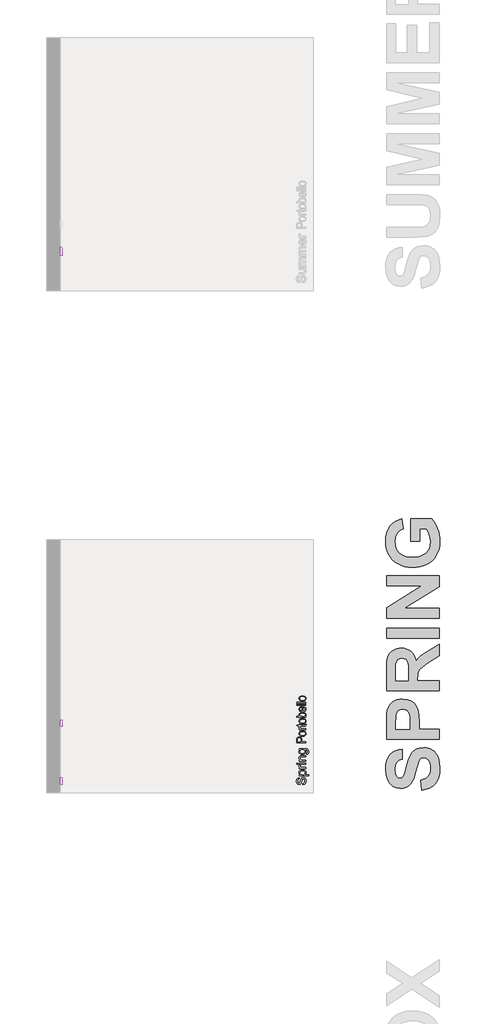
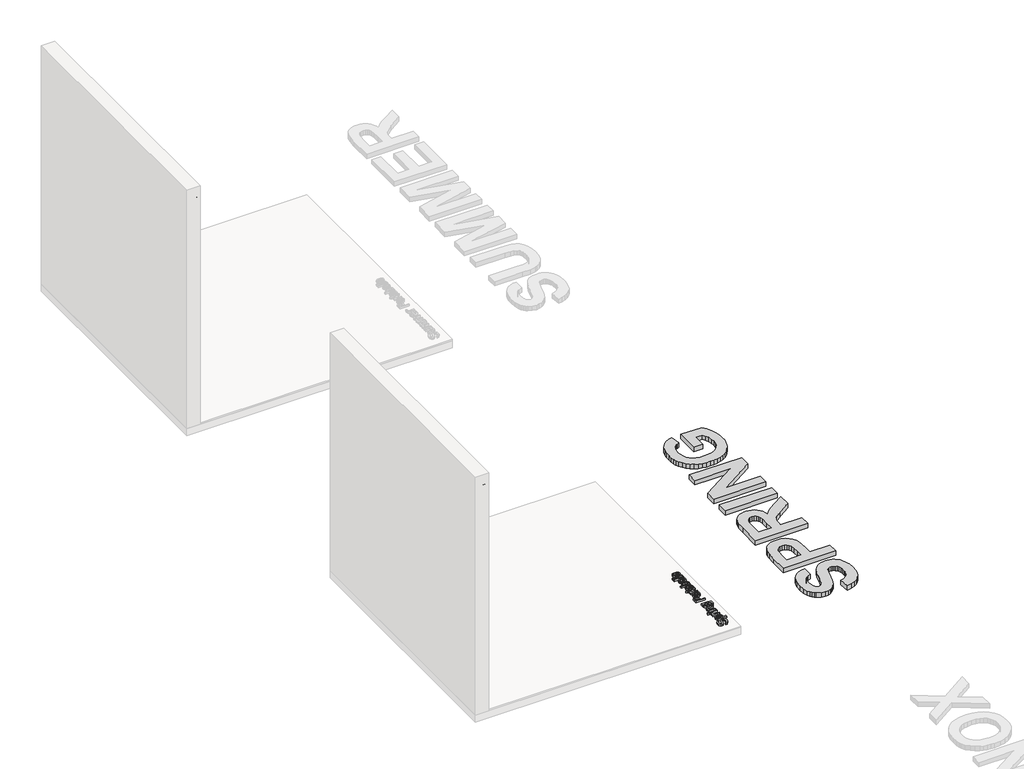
# One storey, part 5 of 7: 6 proxies.
"""IFC4 building model written with IfcOpenShell, lengths in millimetres."""

from ifc_helpers import new_model, si_unit, frame, origin, origin_with_axes, place, context, project, spatial, polyline, outline, extrude, element, save

model = new_model("IFC4")

# Units and contexts
model_context = context("Model", 3, world=origin())
ifc_project = project(units=[si_unit("LENGTHUNIT", "METRE", prefix="MILLI")], contexts=[model_context])

# Site, building, storey
site = spatial("IfcSite", under=ifc_project)
building = spatial("IfcBuilding", under=site)
storey = spatial("IfcBuildingStorey", under=building, Name="PORTOBELLO - SHOWROOM", Elevation=0.0)

# Proxies
placement = place(None, origin())
element("IfcBuildingElementProxy", 1, Name="10mm Arial", ObjectType="10mm Arial", at=placement, inside=storey, context=model_context, shape_type="SweptSolid", body=[
    extrude(outline(polyline([(1550.1794036, 2516.9129824), (1562.7364424, 2516.9129824), (1566.7831443, 2504.3436809), (1576.6669073, 2496.3974299), (1591.7255436, 2493.3685348), (1604.8466681, 2495.6616659), (1613.3202167, 2501.9647107), (1616.1038571, 2510.3892084), (1614.0191925, 2518.2250949), (1605.4843302, 2523.9272658), (1587.2005951, 2528.7219945), (1567.5189083, 2534.9146747), (1556.8380677, 2544.2588774), (1553.3186633, 2556.7423398), (1557.6719336, 2570.9548475), (1570.3883879, 2580.9857633), (1589.0032168, 2584.4070658), (1608.8688446, 2580.8263477), (1622.1125964, 2570.3049227), (1627.0912661, 2554.5840988), (1614.5342273, 2554.5840988), (1612.2288335, 2562.0766287), (1607.4218421, 2567.4844941), (1589.4937262, 2571.8500271), (1571.5165593, 2567.533545), (1565.8757021, 2557.1102218), (1569.8733531, 2548.4036812), (1590.376643, 2541.3893979), (1612.5967155, 2535.086353), (1624.749084, 2524.9082845), (1628.6608959, 2510.7080395), (1624.1604728, 2495.6861913), (1611.2110266, 2484.7233079), (1592.2160529, 2480.811496), (1569.787514, 2485.0298762), (1555.5995317, 2497.7340678), (1550.1794036, 2516.9129824)])), frame((-21807.9634769, 0.0, 0.0), z_axis=(1.0, 0.0, 0.0), x_axis=(0.0, 1.0, 0.0)), (0.0, 0.0, 1.0), 20.0),
    extrude(outline(polyline([(1645.9268242, 2454.1277886), (1645.9268242, 2556.1537286), (1658.483863, 2556.1537286), (1658.483863, 2543.8419445), (1667.1658781, 2554.253005), (1678.889051, 2557.7233584), (1694.8060787, 2552.8673161), (1705.2048764, 2539.1821059), (1708.7120181, 2519.8315129), (1704.7511553, 2499.4876386), (1693.2487115, 2485.6307501), (1677.3684721, 2480.811496), (1666.4423768, 2484.0365948), (1658.483863, 2492.1913124), (1658.483863, 2454.1277886), (1645.9268242, 2454.1277886)]), holes=[polyline([(1658.483863, 2518.678816), (1659.8419607, 2507.421627), (1663.9162538, 2499.5489523), (1669.9280587, 2494.9136391), (1677.0986919, 2493.3685348), (1684.3858211, 2494.9688214), (1690.5509102, 2499.7696815), (1694.753962, 2507.9305304), (1696.1549793, 2519.6107837), (1694.7876846, 2530.8066591), (1690.6858003, 2538.7896984), (1684.6831924, 2543.5721644), (1677.6137267, 2545.1663197), (1670.5166699, 2543.4709968), (1664.2841358, 2538.3850282), (1659.9339312, 2530.0678295), (1658.483863, 2518.678816)])]), frame((-21807.9634769, 0.0, 0.0), z_axis=(1.0, 0.0, 0.0), x_axis=(0.0, 1.0, 0.0)), (0.0, 0.0, 1.0), 20.0),
    extrude(outline(polyline([(1722.8386867, 2482.3811258), (1722.8386867, 2556.1537286), (1733.8260956, 2556.1537286), (1733.8260956, 2545.2398961), (1741.6251939, 2555.2953373), (1749.4733431, 2557.7233584), (1762.0794328, 2553.8483348), (1757.8855781, 2542.5911457), (1749.0564102, 2545.1663197), (1741.9562877, 2542.6892476), (1737.4313392, 2535.822117), (1735.3957255, 2521.1558881), (1735.3957255, 2482.3811258), (1722.8386867, 2482.3811258)])), frame((-21807.9634769, 0.0, 0.0), z_axis=(1.0, 0.0, 0.0), x_axis=(0.0, 1.0, 0.0)), (0.0, 0.0, 1.0), 20.0),
    extrude(outline(polyline([(-21787.9634769, 1782.4846208), (-21787.9634769, 1769.9275821), (-21807.9634769, 1769.9275821), (-21807.9634769, 1782.4846208), (-21787.9634769, 1782.4846208)])), frame((0.0, 0.0, 2570.2803972), z_axis=(0.0, 0.0, 1.0), x_axis=(1.0, 0.0, 0.0)), (0.0, 0.0, 1.0), 12.5570388),
    extrude(outline(polyline([(-21787.9634769, 1782.4846208), (-21787.9634769, 1769.9275821), (-21807.9634769, 1769.9275821), (-21807.9634769, 1782.4846208), (-21787.9634769, 1782.4846208)])), frame((0.0, 0.0, 2482.3811258), z_axis=(0.0, 0.0, 1.0), x_axis=(1.0, 0.0, 0.0)), (0.0, 0.0, 1.0), 73.7726028),
    extrude(outline(polyline([(1801.320179, 2482.3811258), (1801.320179, 2556.1537286), (1813.8772178, 2556.1537286), (1813.8772178, 2545.8530327), (1823.4789378, 2554.755777), (1836.5877996, 2557.7233584), (1848.4458626, 2555.3321255), (1856.5392665, 2549.0536061), (1860.3039255, 2539.819768), (1860.9661131, 2527.6796622), (1860.9661131, 2482.3811258), (1848.4090744, 2482.3811258), (1848.4090744, 2525.987405), (1846.9620719, 2537.0974412), (1841.8485121, 2542.9712904), (1833.2278107, 2545.1663197), (1819.6039141, 2540.2367009), (1815.3088919, 2533.0936589), (1813.8772178, 2521.5237701), (1813.8772178, 2482.3811258), (1801.320179, 2482.3811258)])), frame((-21807.9634769, 0.0, 0.0), z_axis=(1.0, 0.0, 0.0), x_axis=(0.0, 1.0, 0.0)), (0.0, 0.0, 1.0), 20.0),
    extrude(outline(polyline([(1875.0927818, 2476.1026064), (1887.6498205, 2474.5329766), (1891.7210479, 2467.9111007), (1903.9102047, 2465.1151975), (1916.7615491, 2468.2789827), (1922.8929157, 2477.1572015), (1923.751307, 2491.7989049), (1914.9098764, 2484.7355706), (1904.1309339, 2482.3811258), (1891.1845534, 2485.1218467), (1881.5307167, 2493.3440093), (1875.5250431, 2505.398276), (1873.5231519, 2519.6353092), (1877.1161327, 2539.0962668), (1887.5149305, 2552.8673161), (1903.5177972, 2557.7233584), (1914.719804, 2554.9765062), (1923.751307, 2546.7359495), (1923.751307, 2556.1537286), (1936.3083458, 2556.1537286), (1936.3083458, 2492.4610925), (1932.8747805, 2468.0705162), (1921.9977361, 2456.727488), (1903.66495, 2452.5581588), (1891.981631, 2454.0266211), (1882.7815155, 2458.4320079), (1876.8800751, 2465.7865822), (1875.0927818, 2476.1026064)]), holes=[polyline([(1886.0801907, 2520.4937005), (1887.4198943, 2508.9759284), (1891.4390051, 2501.0572685), (1897.4814668, 2496.4679406), (1904.8912234, 2494.9381646), (1912.2457976, 2496.4587435), (1918.3189162, 2501.0204803), (1922.3932093, 2508.8379727), (1923.751307, 2520.1258185), (1922.3533554, 2531.0120599), (1918.1595007, 2538.8510121), (1911.9974772, 2543.5874928), (1904.6950196, 2545.1663197), (1897.5243864, 2543.6120182), (1891.5125815, 2538.949114), (1887.4382884, 2531.2266577), (1886.0801907, 2520.4937005)])]), frame((-21807.9634769, 0.0, 0.0), z_axis=(1.0, 0.0, 0.0), x_axis=(0.0, 1.0, 0.0)), (0.0, 0.0, 1.0), 20.0),
])
element("IfcBuildingElementProxy", 2, Name="10mm Arial", ObjectType="10mm Arial", at=placement, inside=storey, context=model_context, shape_type="SweptSolid", body=[
    extrude(outline(polyline([(2000.0671337, 2482.3811258), (2000.0671337, 2582.837436), (2037.2967916, 2582.837436), (2052.306377, 2581.8809428), (2064.5077965, 2577.184316), (2072.4172594, 2567.4722313), (2075.4093663, 2553.7747584), (2073.389081, 2541.9350895), (2067.3282251, 2532.0697206), (2055.994394, 2525.4110565), (2038.1551829, 2523.1915018), (2012.6241724, 2523.1915018), (2012.6241724, 2482.3811258), (2000.0671337, 2482.3811258)]), holes=[polyline([(2012.6241724, 2535.7485406), (2038.8909469, 2535.7485406), (2057.3831485, 2540.3593283), (2061.4850328, 2545.908215), (2062.8523275, 2553.3333), (2059.6272287, 2563.7320977), (2051.1536801, 2569.4220059), (2038.5966413, 2570.2803972), (2012.6241724, 2570.2803972), (2012.6241724, 2535.7485406)])]), frame((-21807.9634769, 0.0, 0.0), z_axis=(1.0, 0.0, 0.0), x_axis=(0.0, 1.0, 0.0)), (0.0, 0.0, 1.0), 20.0),
    extrude(outline(polyline([(2087.966405, 2519.2674272), (2090.6826004, 2537.0545217), (2098.8311866, 2549.5563782), (2108.8988906, 2555.6816134), (2120.9531573, 2557.7233584), (2134.1447925, 2555.2370893), (2144.681546, 2547.7782818), (2151.5885304, 2535.9355473), (2153.8908586, 2520.2974968), (2149.8196312, 2497.954797), (2137.9615682, 2485.3119191), (2120.9531573, 2480.811496), (2107.6021065, 2483.2885681), (2097.0776158, 2490.7197844), (2090.2442077, 2502.8108393), (2087.966405, 2519.2674272)]), holes=[polyline([(2100.5234438, 2519.2919527), (2101.9765777, 2507.9274647), (2106.3359793, 2499.8309951), (2112.8965416, 2494.9841499), (2120.9531573, 2493.3685348), (2128.9729848, 2494.9933469), (2135.5212843, 2499.8677833), (2139.8806859, 2508.0715518), (2141.3338198, 2519.6843601), (2139.8714889, 2530.7177543), (2135.4844961, 2538.7038593), (2128.9269995, 2543.5507046), (2120.9531573, 2545.1663197), (2112.8965416, 2543.5568359), (2106.3359793, 2538.7283848), (2101.9765777, 2530.6503093), (2100.5234438, 2519.2919527)])]), frame((-21807.9634769, 0.0, 0.0), z_axis=(1.0, 0.0, 0.0), x_axis=(0.0, 1.0, 0.0)), (0.0, 0.0, 1.0), 20.0),
    extrude(outline(polyline([(2168.0175272, 2482.3811258), (2168.0175272, 2556.1537286), (2179.0049361, 2556.1537286), (2179.0049361, 2545.2398961), (2186.8040344, 2555.2953373), (2194.6521836, 2557.7233584), (2207.2582733, 2553.8483348), (2203.0644186, 2542.5911457), (2194.2352507, 2545.1663197), (2187.1351282, 2542.6892476), (2182.6101797, 2535.822117), (2180.574566, 2521.1558881), (2180.574566, 2482.3811258), (2168.0175272, 2482.3811258)])), frame((-21807.9634769, 0.0, 0.0), z_axis=(1.0, 0.0, 0.0), x_axis=(0.0, 1.0, 0.0)), (0.0, 0.0, 1.0), 20.0),
    extrude(outline(polyline([(2241.79013, 2492.8535), (2243.3597598, 2482.0132438), (2233.9665062, 2480.811496), (2223.4450811, 2482.8961606), (2218.1966313, 2488.3653396), (2216.6760524, 2502.6146356), (2216.6760524, 2543.5966898), (2207.2582733, 2543.5966898), (2207.2582733, 2553.8483348), (2207.2582733, 2556.1537286), (2216.6760524, 2556.1537286), (2216.6760524, 2574.0818445), (2229.2330912, 2581.4640099), (2229.2330912, 2556.1537286), (2241.79013, 2556.1537286), (2241.79013, 2543.5966898), (2229.2330912, 2543.5966898), (2229.2330912, 2502.9825176), (2229.8952788, 2496.5077944), (2232.0412571, 2494.2146633), (2236.320951, 2493.3685348), (2241.79013, 2492.8535)])), frame((-21807.9634769, 0.0, 0.0), z_axis=(1.0, 0.0, 0.0), x_axis=(0.0, 1.0, 0.0)), (0.0, 0.0, 1.0), 20.0),
    extrude(outline(polyline([(2251.207909, 2519.2674272), (2253.9241044, 2537.0545217), (2262.0726906, 2549.5563782), (2272.1403946, 2555.6816134), (2284.1946613, 2557.7233584), (2297.3862965, 2555.2370893), (2307.92305, 2547.7782818), (2314.8300344, 2535.9355473), (2317.1323626, 2520.2974968), (2313.0611352, 2497.954797), (2301.2030722, 2485.3119191), (2284.1946613, 2480.811496), (2270.8436105, 2483.2885681), (2260.3191198, 2490.7197844), (2253.4857117, 2502.8108393), (2251.207909, 2519.2674272)]), holes=[polyline([(2263.7649478, 2519.2919527), (2265.2180817, 2507.9274647), (2269.5774833, 2499.8309951), (2276.1380456, 2494.9841499), (2284.1946613, 2493.3685348), (2292.2144888, 2494.9933469), (2298.7627883, 2499.8677833), (2303.1221899, 2508.0715518), (2304.5753238, 2519.6843601), (2303.1129929, 2530.7177543), (2298.7260001, 2538.7038593), (2292.1685035, 2543.5507046), (2284.1946613, 2545.1663197), (2276.1380456, 2543.5568359), (2269.5774833, 2538.7283848), (2265.2180817, 2530.6503093), (2263.7649478, 2519.2919527)])]), frame((-21807.9634769, 0.0, 0.0), z_axis=(1.0, 0.0, 0.0), x_axis=(0.0, 1.0, 0.0)), (0.0, 0.0, 1.0), 20.0),
    extrude(outline(polyline([(2343.8160699, 2482.3811258), (2331.2590312, 2482.3811258), (2331.2590312, 2582.837436), (2343.8160699, 2582.837436), (2343.8160699, 2545.5832526), (2352.6084496, 2554.688332), (2363.5345449, 2557.7233584), (2376.1161091, 2554.9887689), (2385.8772447, 2547.3000352), (2391.8737213, 2535.3438704), (2394.044225, 2520.3710732), (2391.7970792, 2503.607917), (2385.0556416, 2491.1367173), (2375.1626816, 2483.3928013), (2363.4609685, 2480.811496), (2352.2957499, 2484.140828), (2343.8160699, 2494.1288242), (2343.8160699, 2482.3811258)]), holes=[polyline([(2343.8160699, 2519.782462), (2347.2496352, 2502.2222281), (2353.8285916, 2495.5819581), (2362.381848, 2493.3685348), (2369.6291233, 2494.9994783), (2375.8218035, 2499.8923088), (2380.0708406, 2508.0163695), (2381.4871863, 2519.3410036), (2380.1290886, 2530.8311846), (2376.0547955, 2538.8632748), (2370.0552533, 2543.5905585), (2362.9214082, 2545.1663197), (2355.6741329, 2543.5353762), (2349.4814527, 2538.6425456), (2345.2324156, 2530.6656377), (2343.8160699, 2519.782462)])]), frame((-21807.9634769, 0.0, 0.0), z_axis=(1.0, 0.0, 0.0), x_axis=(0.0, 1.0, 0.0)), (0.0, 0.0, 1.0), 20.0),
    extrude(outline(polyline([(2459.8215258, 2504.3559437), (2472.1333099, 2502.7863138), (2467.6972661, 2493.5095562), (2460.6186034, 2486.5749806), (2451.0567372, 2482.2523671), (2439.1710831, 2480.811496), (2424.4374092, 2483.2977651), (2413.1005124, 2490.7565726), (2405.8716312, 2502.7035404), (2403.4620041, 2518.6542906), (2405.8961566, 2535.1415353), (2413.1986142, 2547.4717135), (2424.3822269, 2555.1604472), (2438.4598446, 2557.7233584), (2452.0990695, 2555.1665786), (2462.9975737, 2547.496239), (2470.1436814, 2535.1905862), (2472.5257173, 2518.727867), (2472.4521409, 2515.3433526), (2416.0190429, 2515.3433526), (2418.1926123, 2505.9439676), (2423.2417927, 2499.0339175), (2430.5289219, 2494.7848804), (2439.4163378, 2493.3685348), (2451.7281219, 2495.9927597), (2459.8215258, 2504.3559437)]), holes=[polyline([(2416.0190429, 2527.9003914), (2459.9686786, 2527.9003914), (2454.940958, 2539.2802078), (2447.6201063, 2543.6947917), (2438.4107936, 2545.1663197), (2422.9474871, 2540.4696929), (2418.0822477, 2534.9790541), (2416.0190429, 2527.9003914)])]), frame((-21807.9634769, 0.0, 0.0), z_axis=(1.0, 0.0, 0.0), x_axis=(0.0, 1.0, 0.0)), (0.0, 0.0, 1.0), 20.0),
    extrude(outline(polyline([(-21787.9634769, 2497.6397949), (-21787.9634769, 2485.0827561), (-21807.9634769, 2485.0827561), (-21807.9634769, 2497.6397949), (-21787.9634769, 2497.6397949)])), frame((0.0, 0.0, 2482.3811258), z_axis=(0.0, 0.0, 1.0), x_axis=(1.0, 0.0, 0.0)), (0.0, 0.0, 1.0), 100.4563101),
    extrude(outline(polyline([(-21787.9634769, 2529.0323918), (-21787.9634769, 2516.475353), (-21807.9634769, 2516.475353), (-21807.9634769, 2529.0323918), (-21787.9634769, 2529.0323918)])), frame((0.0, 0.0, 2482.3811258), z_axis=(0.0, 0.0, 1.0), x_axis=(1.0, 0.0, 0.0)), (0.0, 0.0, 1.0), 100.4563101),
    extrude(outline(polyline([(2544.7286902, 2519.2674272), (2547.4448856, 2537.0545217), (2555.5934718, 2549.5563782), (2565.6611758, 2555.6816134), (2577.7154425, 2557.7233584), (2590.9070777, 2555.2370893), (2601.4438312, 2547.7782818), (2608.3508156, 2535.9355473), (2610.6531438, 2520.2974968), (2606.5819164, 2497.954797), (2594.7238534, 2485.3119191), (2577.7154425, 2480.811496), (2564.3643917, 2483.2885681), (2553.839901, 2490.7197844), (2547.0064929, 2502.8108393), (2544.7286902, 2519.2674272)]), holes=[polyline([(2557.285729, 2519.2919527), (2558.7388629, 2507.9274647), (2563.0982645, 2499.8309951), (2569.6588268, 2494.9841499), (2577.7154425, 2493.3685348), (2585.73527, 2494.9933469), (2592.2835695, 2499.8677833), (2596.6429711, 2508.0715518), (2598.096105, 2519.6843601), (2596.6337741, 2530.7177543), (2592.2467813, 2538.7038593), (2585.6892847, 2543.5507046), (2577.7154425, 2545.1663197), (2569.6588268, 2543.5568359), (2563.0982645, 2538.7283848), (2558.7388629, 2530.6503093), (2557.285729, 2519.2919527)])]), frame((-21807.9634769, 0.0, 0.0), z_axis=(1.0, 0.0, 0.0), x_axis=(0.0, 1.0, 0.0)), (0.0, 0.0, 1.0), 20.0),
])
element("IfcBuildingElementProxy", 3, Name="10mm Arial", ObjectType="10mm Arial", at=placement, inside=storey, context=model_context, shape_type="SweptSolid", body=[
    extrude(outline(polyline([(-19218.0670497, 1550.1794036), (-19218.0670497, 1562.7364424), (-19205.4977482, 1566.7831443), (-19197.5514971, 1576.6669073), (-19194.522602, 1591.7255436), (-19196.8157331, 1604.8466681), (-19203.118778, 1613.3202167), (-19211.5432757, 1616.1038571), (-19219.3791622, 1614.0191925), (-19225.0813331, 1605.4843302), (-19229.8760617, 1587.2005951), (-19236.068742, 1567.5189083), (-19245.4129447, 1556.8380677), (-19257.896407, 1553.3186633), (-19272.1089148, 1557.6719336), (-19282.1398305, 1570.3883879), (-19285.5611331, 1589.0032168), (-19281.980415, 1608.8688446), (-19271.4589899, 1622.1125964), (-19255.738166, 1627.0912661), (-19255.738166, 1614.5342273), (-19263.230696, 1612.2288335), (-19268.6385613, 1607.4218421), (-19273.0040943, 1589.4937262), (-19268.6876122, 1571.5165593), (-19258.264289, 1565.8757021), (-19249.5577485, 1569.8733531), (-19242.5434651, 1590.376643), (-19236.2404203, 1612.5967155), (-19226.0623517, 1624.749084), (-19211.8621067, 1628.6608959), (-19196.8402586, 1624.1604728), (-19185.8773751, 1611.2110266), (-19181.9655632, 1592.2160529), (-19186.1839435, 1569.787514), (-19198.888135, 1555.5995317), (-19218.0670497, 1550.1794036)])), frame((0.0, 0.0, 15.0), z_axis=(0.0, 0.0, 1.0), x_axis=(1.0, 0.0, 0.0)), (0.0, 0.0, 1.0), 20.0),
    extrude(outline(polyline([(-19155.2818559, 1645.9268242), (-19257.3077959, 1645.9268242), (-19257.3077959, 1658.483863), (-19244.9960117, 1658.483863), (-19255.4070722, 1667.1658781), (-19258.8774257, 1678.889051), (-19254.0213834, 1694.8060786), (-19240.3361731, 1705.2048764), (-19220.9855802, 1708.7120181), (-19200.6417059, 1704.7511553), (-19186.7848174, 1693.2487115), (-19181.9655632, 1677.3684721), (-19185.1906621, 1666.4423768), (-19193.3453796, 1658.483863), (-19155.2818559, 1658.483863), (-19155.2818559, 1645.9268242)]), holes=[polyline([(-19219.8328833, 1658.483863), (-19208.5756942, 1659.8419607), (-19200.7030195, 1663.9162538), (-19196.0677064, 1669.9280587), (-19194.522602, 1677.0986919), (-19196.1228887, 1684.3858211), (-19200.9237487, 1690.5509102), (-19209.0845977, 1694.753962), (-19220.764851, 1696.1549793), (-19231.9607264, 1694.7876846), (-19239.9437657, 1690.6858003), (-19244.7262316, 1684.6831924), (-19246.3203869, 1677.6137267), (-19244.6250641, 1670.5166699), (-19239.5390955, 1664.2841358), (-19231.2218967, 1659.9339312), (-19219.8328833, 1658.483863)])]), frame((0.0, 0.0, 15.0), z_axis=(0.0, 0.0, 1.0), x_axis=(1.0, 0.0, 0.0)), (0.0, 0.0, 1.0), 20.0),
    extrude(outline(polyline([(-19183.5351931, 1722.8386867), (-19257.3077959, 1722.8386867), (-19257.3077959, 1733.8260956), (-19246.3939633, 1733.8260956), (-19256.4494045, 1741.6251939), (-19258.8774257, 1749.4733431), (-19255.002402, 1762.0794328), (-19243.745213, 1757.8855781), (-19246.3203869, 1749.0564102), (-19243.8433148, 1741.9562877), (-19236.9761843, 1737.4313392), (-19222.3099554, 1735.3957255), (-19183.5351931, 1735.3957255), (-19183.5351931, 1722.8386867)])), frame((0.0, 0.0, 15.0), z_axis=(0.0, 0.0, 1.0), x_axis=(1.0, 0.0, 0.0)), (0.0, 0.0, 1.0), 20.0),
    extrude(outline(polyline([(-19271.4344645, 1769.9275821), (-19283.9915032, 1769.9275821), (-19283.9915032, 1782.4846208), (-19271.4344645, 1782.4846208), (-19271.4344645, 1769.9275821)])), frame((0.0, 0.0, 15.0), z_axis=(0.0, 0.0, 1.0), x_axis=(1.0, 0.0, 0.0)), (0.0, 0.0, 1.0), 20.0),
    extrude(outline(polyline([(-19183.5351931, 1769.9275821), (-19257.3077959, 1769.9275821), (-19257.3077959, 1782.4846208), (-19183.5351931, 1782.4846208), (-19183.5351931, 1769.9275821)])), frame((0.0, 0.0, 15.0), z_axis=(0.0, 0.0, 1.0), x_axis=(1.0, 0.0, 0.0)), (0.0, 0.0, 1.0), 20.0),
    extrude(outline(polyline([(-19183.5351931, 1801.320179), (-19257.3077959, 1801.320179), (-19257.3077959, 1813.8772178), (-19247.0071, 1813.8772178), (-19255.9098443, 1823.4789378), (-19258.8774257, 1836.5877996), (-19256.4861927, 1848.4458626), (-19250.2076733, 1856.5392665), (-19240.9738353, 1860.3039255), (-19228.8337294, 1860.9661131), (-19183.5351931, 1860.9661131), (-19183.5351931, 1848.4090744), (-19227.1414722, 1848.4090744), (-19238.2515085, 1846.9620719), (-19244.1253577, 1841.8485121), (-19246.3203869, 1833.2278107), (-19241.3907682, 1819.6039141), (-19234.2477261, 1815.3088919), (-19222.6778374, 1813.8772178), (-19183.5351931, 1813.8772178), (-19183.5351931, 1801.320179)])), frame((0.0, 0.0, 15.0), z_axis=(0.0, 0.0, 1.0), x_axis=(1.0, 0.0, 0.0)), (0.0, 0.0, 1.0), 20.0),
    extrude(outline(polyline([(-19177.2566737, 1875.0927818), (-19175.6870439, 1887.6498205), (-19169.0651679, 1891.7210479), (-19166.2692648, 1903.9102047), (-19169.4330499, 1916.7615491), (-19178.3112688, 1922.8929157), (-19192.9529722, 1923.751307), (-19185.8896379, 1914.9098764), (-19183.5351931, 1904.1309339), (-19186.275914, 1891.1845534), (-19194.4980765, 1881.5307167), (-19206.5523433, 1875.5250431), (-19220.7893765, 1873.5231519), (-19240.250334, 1877.1161327), (-19254.0213834, 1887.5149305), (-19258.8774257, 1903.5177972), (-19256.1305735, 1914.719804), (-19247.8900168, 1923.751307), (-19257.3077959, 1923.751307), (-19257.3077959, 1936.3083458), (-19193.6151598, 1936.3083458), (-19169.2245835, 1932.8747805), (-19157.8815553, 1921.9977361), (-19153.712226, 1903.66495), (-19155.1806883, 1891.981631), (-19159.5860752, 1882.7815155), (-19166.9406494, 1876.8800751), (-19177.2566737, 1875.0927818)]), holes=[polyline([(-19221.6477678, 1886.0801907), (-19210.1299957, 1887.4198943), (-19202.2113357, 1891.4390051), (-19197.6220078, 1897.4814668), (-19196.0922319, 1904.8912234), (-19197.6128108, 1912.2457976), (-19202.1745475, 1918.3189162), (-19209.9920399, 1922.3932093), (-19221.2798858, 1923.751307), (-19232.1661272, 1922.3533554), (-19240.0050793, 1918.1595007), (-19244.74156, 1911.9974772), (-19246.3203869, 1904.6950196), (-19244.7660855, 1897.5243864), (-19240.1031812, 1891.5125815), (-19232.380725, 1887.4382884), (-19221.6477678, 1886.0801907)])]), frame((0.0, 0.0, 15.0), z_axis=(0.0, 0.0, 1.0), x_axis=(1.0, 0.0, 0.0)), (0.0, 0.0, 1.0), 20.0),
])
element("IfcBuildingElementProxy", 4, Name="10mm Arial", ObjectType="10mm Arial", at=placement, inside=storey, context=model_context, shape_type="SweptSolid", body=[
    extrude(outline(polyline([(6910.1794036, 2516.9129824), (6922.7364424, 2516.9129824), (6926.7831443, 2504.3436809), (6936.6669073, 2496.3974299), (6951.7255436, 2493.3685348), (6964.8466681, 2495.6616659), (6973.3202167, 2501.9647107), (6976.1038571, 2510.3892084), (6974.0191925, 2518.2250949), (6965.4843302, 2523.9272658), (6947.2005951, 2528.7219945), (6927.5189083, 2534.9146747), (6916.8380677, 2544.2588774), (6913.3186633, 2556.7423398), (6917.6719336, 2570.9548475), (6930.3883879, 2580.9857633), (6949.0032168, 2584.4070658), (6968.8688446, 2580.8263477), (6982.1125964, 2570.3049227), (6987.0912661, 2554.5840988), (6974.5342273, 2554.5840988), (6972.2288335, 2562.0766287), (6967.4218421, 2567.4844941), (6949.4937262, 2571.8500271), (6931.5165593, 2567.533545), (6925.8757021, 2557.1102218), (6929.8733531, 2548.4036812), (6950.376643, 2541.3893979), (6972.5967155, 2535.086353), (6984.749084, 2524.9082845), (6988.6608959, 2510.7080395), (6984.1604728, 2495.6861913), (6971.2110266, 2484.7233079), (6952.2160529, 2480.811496), (6929.787514, 2485.0298762), (6915.5995317, 2497.7340678), (6910.1794036, 2516.9129824)])), frame((-21807.9634769, 0.0, 0.0), z_axis=(1.0, 0.0, 0.0), x_axis=(0.0, 1.0, 0.0)), (0.0, 0.0, 1.0), 20.0),
    extrude(outline(polyline([(7053.0157196, 2482.3811258), (7053.0157196, 2495.0607919), (7043.1810076, 2484.37382), (7030.3541887, 2480.811496), (7018.5451767, 2483.3130936), (7010.4027218, 2489.5916129), (7006.6625882, 2498.8377138), (7005.9268242, 2510.5118357), (7005.9268242, 2556.1537286), (7018.483863, 2556.1537286), (7018.483863, 2516.4224731), (7019.2441524, 2503.6201797), (7024.2105594, 2496.1031243), (7033.5670248, 2493.3685348), (7044.0516617, 2496.1644379), (7050.9801059, 2503.7795952), (7053.0157196, 2517.7713738), (7053.0157196, 2556.1537286), (7065.5727584, 2556.1537286), (7065.5727584, 2482.3811258), (7053.0157196, 2482.3811258)])), frame((-21807.9634769, 0.0, 0.0), z_axis=(1.0, 0.0, 0.0), x_axis=(0.0, 1.0, 0.0)), (0.0, 0.0, 1.0), 20.0),
    extrude(outline(polyline([(7082.8386867, 2482.3811258), (7082.8386867, 2556.1537286), (7095.3957255, 2556.1537286), (7095.3957255, 2544.0136228), (7104.0286896, 2553.9586994), (7116.3159482, 2557.7233584), (7128.8975125, 2553.885123), (7135.813694, 2543.130706), (7145.6116178, 2554.0751953), (7157.9847156, 2557.7233584), (7167.4239544, 2556.2058452), (7174.4045153, 2551.6533055), (7178.7179317, 2543.943112), (7180.1557371, 2532.9526374), (7180.1557371, 2482.3811258), (7167.5986984, 2482.3811258), (7167.5986984, 2527.5570348), (7166.4337387, 2538.0416717), (7162.2153585, 2543.2042824), (7155.0416596, 2545.1663197), (7142.6930873, 2540.1385991), (7139.0050703, 2533.5964309), (7137.7757313, 2524.0253677), (7137.7757313, 2482.3811258), (7125.2186925, 2482.3811258), (7125.2186925, 2528.9549864), (7122.3124248, 2541.1196177), (7112.7842811, 2545.1663197), (7103.4891293, 2542.4685184), (7097.3087118, 2534.5713182), (7095.3957255, 2519.5862583), (7095.3957255, 2482.3811258), (7082.8386867, 2482.3811258)])), frame((-21807.9634769, 0.0, 0.0), z_axis=(1.0, 0.0, 0.0), x_axis=(0.0, 1.0, 0.0)), (0.0, 0.0, 1.0), 20.0),
    extrude(outline(polyline([(7198.9912953, 2482.3811258), (7198.9912953, 2556.1537286), (7211.5483341, 2556.1537286), (7211.5483341, 2544.0136228), (7220.1812982, 2553.9586994), (7232.4685569, 2557.7233584), (7245.0501211, 2553.885123), (7251.9663026, 2543.130706), (7261.7642264, 2554.0751953), (7274.1373242, 2557.7233584), (7283.576563, 2556.2058452), (7290.5571239, 2551.6533055), (7294.8705403, 2543.943112), (7296.3083458, 2532.9526374), (7296.3083458, 2482.3811258), (7283.751307, 2482.3811258), (7283.751307, 2527.5570348), (7282.5863473, 2538.0416717), (7278.3679671, 2543.2042824), (7271.1942682, 2545.1663197), (7258.8456959, 2540.1385991), (7255.1576789, 2533.5964309), (7253.9283399, 2524.0253677), (7253.9283399, 2482.3811258), (7241.3713011, 2482.3811258), (7241.3713011, 2528.9549864), (7238.4650334, 2541.1196177), (7228.9368897, 2545.1663197), (7219.641738, 2542.4685184), (7213.4613204, 2534.5713182), (7211.5483341, 2519.5862583), (7211.5483341, 2482.3811258), (7198.9912953, 2482.3811258)])), frame((-21807.9634769, 0.0, 0.0), z_axis=(1.0, 0.0, 0.0), x_axis=(0.0, 1.0, 0.0)), (0.0, 0.0, 1.0), 20.0),
    extrude(outline(polyline([(7366.794536, 2504.3559437), (7379.1063201, 2502.7863138), (7374.6702764, 2493.5095562), (7367.5916137, 2486.5749806), (7358.0297475, 2482.2523671), (7346.1440934, 2480.811496), (7331.4104195, 2483.2977651), (7320.0735226, 2490.7565726), (7312.8446414, 2502.7035404), (7310.4350144, 2518.6542906), (7312.8691669, 2535.1415353), (7320.1716245, 2547.4717135), (7331.3552372, 2555.1604472), (7345.4328548, 2557.7233584), (7359.0720798, 2555.1665786), (7369.9705839, 2547.496239), (7377.1166917, 2535.1905862), (7379.4987276, 2518.727867), (7379.4251512, 2515.3433526), (7322.9920531, 2515.3433526), (7325.1656226, 2505.9439676), (7330.214803, 2499.0339175), (7337.5019322, 2494.7848804), (7346.389348, 2493.3685348), (7358.7011321, 2495.9927597), (7366.794536, 2504.3559437)]), holes=[polyline([(7322.9920531, 2527.9003914), (7366.9416888, 2527.9003914), (7361.9139682, 2539.2802078), (7354.5931165, 2543.6947917), (7345.3838039, 2545.1663197), (7329.9204974, 2540.4696929), (7325.055258, 2534.9790541), (7322.9920531, 2527.9003914)])]), frame((-21807.9634769, 0.0, 0.0), z_axis=(1.0, 0.0, 0.0), x_axis=(0.0, 1.0, 0.0)), (0.0, 0.0, 1.0), 20.0),
    extrude(outline(polyline([(7392.0557664, 2482.3811258), (7392.0557664, 2556.1537286), (7403.0431753, 2556.1537286), (7403.0431753, 2545.2398961), (7410.8422736, 2555.2953373), (7418.6904228, 2557.7233584), (7431.2965125, 2553.8483348), (7427.1026578, 2542.5911457), (7418.2734899, 2545.1663197), (7411.1733674, 2542.6892476), (7406.6484188, 2535.822117), (7404.6128051, 2521.1558881), (7404.6128051, 2482.3811258), (7392.0557664, 2482.3811258)])), frame((-21807.9634769, 0.0, 0.0), z_axis=(1.0, 0.0, 0.0), x_axis=(0.0, 1.0, 0.0)), (0.0, 0.0, 1.0), 20.0),
])
element("IfcBuildingElementProxy", 5, Name="10mm Arial Narrow", ObjectType="10mm Arial Narrow", at=placement, inside=storey, context=model_context, shape_type="SweptSolid", body=[
    extrude(outline(polyline([(-19183.5351931, 1997.2021928), (-19284.2537968, 1997.2021928), (-19284.2537968, 2028.4990775), (-19282.3754761, 2044.794779), (-19272.8950329, 2056.2677651), (-19255.8759241, 2060.5574435), (-19243.8000986, 2058.7711351), (-19234.1737048, 2053.4122099), (-19227.8724464, 2043.6684211), (-19225.7720269, 2028.7275219), (-19225.7720269, 2006.9491544), (-19183.5351931, 2006.9491544), (-19183.5351931, 1997.2021928)]), holes=[polyline([(-19237.1434822, 2006.9491544), (-19237.1434822, 2029.9205094), (-19241.6742964, 2045.7847048), (-19255.3428871, 2050.8104819), (-19265.5086636, 2048.3356674), (-19271.3086134, 2042.3580386), (-19272.8823416, 2029.692065), (-19272.8823416, 2006.9491544), (-19237.1434822, 2006.9491544)])]), frame((0.0, 0.0, 15.0), z_axis=(0.0, 0.0, 1.0), x_axis=(1.0, 0.0, 0.0)), (0.0, 0.0, 1.0), 20.0),
    extrude(outline(polyline([(-19220.0862993, 2068.6799116), (-19236.6770748, 2070.6343804), (-19248.6291597, 2076.4977871), (-19255.8537142, 2085.3563538), (-19258.2618991, 2096.2963029), (-19255.8537142, 2107.1093385), (-19248.6291597, 2115.9932879), (-19236.8674452, 2121.9328427), (-19220.8477807, 2123.9126943), (-19203.6858941, 2121.9677439), (-19191.5434389, 2116.1328929), (-19184.3188843, 2107.2838447), (-19181.9106995, 2096.2963029), (-19184.32523, 2085.4356748), (-19191.5688216, 2076.5612438), (-19203.5272521, 2070.6502446), (-19220.0862993, 2068.6799116)]), holes=[polyline([(-19220.111682, 2078.4268732), (-19207.5599306, 2079.7309101), (-19198.6886725, 2083.6430207), (-19193.415414, 2089.4842174), (-19191.6576611, 2096.5755128), (-19193.4312782, 2103.2955859), (-19198.7521293, 2108.9876592), (-19207.6392516, 2112.8712143), (-19220.111682, 2114.1657326), (-19232.6253593, 2112.8616958), (-19241.483926, 2108.9495852), (-19246.7571846, 2103.1083884), (-19248.5149374, 2096.0170931), (-19246.7476661, 2089.2494273), (-19241.445852, 2083.5668725), (-19232.5777667, 2079.7118731), (-19220.111682, 2078.4268732)])]), frame((0.0, 0.0, 15.0), z_axis=(0.0, 0.0, 1.0), x_axis=(1.0, 0.0, 0.0)), (0.0, 0.0, 1.0), 20.0),
    extrude(outline(polyline([(-19191.6576611, 2195.3904131), (-19181.9106995, 2197.0149067), (-19181.9106995, 2189.65392), (-19184.030156, 2181.3791557), (-19189.8301058, 2177.0640945), (-19204.475931, 2175.8964898), (-19246.8904438, 2175.8964898), (-19246.8904438, 2167.7740217), (-19250.1394311, 2167.7740217), (-19245.2659502, 2166.1495281), (-19246.8904438, 2158.5854797), (-19244.5679256, 2152.5063201), (-19238.0826425, 2148.6354564), (-19222.675336, 2146.6556048), (-19183.5351931, 2146.6556048), (-19183.5351931, 2136.9086431), (-19256.6374055, 2136.9086431), (-19256.6374055, 2146.6556048), (-19246.9412093, 2146.6556048), (-19256.0282204, 2152.8997521), (-19258.2618991, 2159.2961957), (-19256.6374055, 2167.7740217), (-19256.6374055, 2175.8964898), (-19272.8823416, 2175.8964898), (-19281.0048096, 2185.6434514), (-19256.6374055, 2185.6434514), (-19256.6374055, 2195.3904131), (-19246.8904438, 2195.3904131), (-19246.8904438, 2185.6434514), (-19202.2422523, 2185.6434514), (-19194.2466978, 2186.5064636), (-19191.6576611, 2191.1261173), (-19191.6576611, 2195.3904131)])), frame((0.0, 0.0, 15.0), z_axis=(0.0, 0.0, 1.0), x_axis=(1.0, 0.0, 0.0)), (0.0, 0.0, 1.0), 20.0),
    extrude(outline(polyline([(-19220.0862993, 2201.8883875), (-19236.6770748, 2203.8428564), (-19248.6291597, 2209.706263), (-19255.8537142, 2218.5648297), (-19258.2618991, 2229.5047789), (-19255.8537142, 2240.3178144), (-19248.6291597, 2249.2017639), (-19236.8674452, 2255.1413186), (-19220.8477807, 2257.1211702), (-19203.6858941, 2255.1762198), (-19191.5434389, 2249.3413688), (-19184.3188843, 2240.4923206), (-19181.9106995, 2229.5047789), (-19184.32523, 2218.6441507), (-19191.5688216, 2209.7697198), (-19203.5272521, 2203.8587206), (-19220.0862993, 2201.8883875)]), holes=[polyline([(-19220.111682, 2211.6353492), (-19207.5599306, 2212.939386), (-19198.6886725, 2216.8514966), (-19193.415414, 2222.6926933), (-19191.6576611, 2229.7839887), (-19193.4312782, 2236.5040619), (-19198.7521293, 2242.1961352), (-19207.6392516, 2246.0796902), (-19220.111682, 2247.3742086), (-19232.6253593, 2246.0701717), (-19241.483926, 2242.1580611), (-19246.7571846, 2236.3168644), (-19248.5149374, 2229.225569), (-19246.7476661, 2222.4579033), (-19241.445852, 2216.7753485), (-19232.5777667, 2212.920349), (-19220.111682, 2211.6353492)])]), frame((0.0, 0.0, 15.0), z_axis=(0.0, 0.0, 1.0), x_axis=(1.0, 0.0, 0.0)), (0.0, 0.0, 1.0), 20.0),
    extrude(outline(polyline([(-19183.5351931, 2279.8640807), (-19183.5351931, 2270.1171191), (-19284.2537968, 2270.1171191), (-19284.2537968, 2279.8640807), (-19248.8449127, 2279.8640807), (-19255.9266895, 2287.2631415), (-19258.2618991, 2296.4643748), (-19254.0610602, 2309.3461015), (-19241.3316298, 2318.6234829), (-19220.644719, 2322.1009146), (-19204.1903755, 2320.1686556), (-19191.9876364, 2314.3718786), (-19184.4299337, 2305.9987562), (-19181.9106995, 2296.3374612), (-19184.5251189, 2286.996623), (-19192.2922289, 2279.8640807), (-19183.5351931, 2279.8640807)]), holes=[polyline([(-19220.644719, 2279.8640807), (-19203.3971657, 2281.9454632), (-19194.6655126, 2287.8342525), (-19191.6576611, 2296.2866958), (-19193.4471424, 2302.2294234), (-19198.8155861, 2307.4677807), (-19220.2385956, 2312.3539529), (-19241.6742964, 2307.6454597), (-19246.8047772, 2302.4007567), (-19248.5149374, 2296.0836341), (-19246.7254562, 2290.1060053), (-19241.3570125, 2284.8137097), (-19220.644719, 2279.8640807)])]), frame((0.0, 0.0, 15.0), z_axis=(0.0, 0.0, 1.0), x_axis=(1.0, 0.0, 0.0)), (0.0, 0.0, 1.0), 20.0),
    extrude(outline(polyline([(-19206.2781036, 2374.08471), (-19204.65361, 2383.8316717), (-19194.7670434, 2380.1321413), (-19187.6471925, 2374.3131545), (-19183.3448227, 2366.6095012), (-19181.9106995, 2357.2559716), (-19184.32523, 2345.6624176), (-19191.5688216, 2336.5182953), (-19203.3749559, 2330.5787406), (-19219.4771142, 2328.598889), (-19236.1440379, 2330.5882591), (-19248.3245671, 2336.5563694), (-19255.7775661, 2345.5704052), (-19258.2618991, 2356.6975519), (-19255.8632328, 2367.3805011), (-19248.6672337, 2376.1280184), (-19236.9277291, 2381.9628695), (-19220.8985461, 2383.9078198), (-19217.6495589, 2383.8316717), (-19217.6495589, 2338.3458507), (-19198.206401, 2344.3488622), (-19193.2948461, 2350.2788984), (-19191.6576611, 2357.3828851), (-19195.3127718, 2367.5613529), (-19206.2781036, 2374.08471)]), holes=[polyline([(-19227.3965205, 2339.0058012), (-19227.3965205, 2374.08471), (-19241.661605, 2369.8204143), (-19246.8016043, 2363.9950818), (-19248.5149374, 2356.7737), (-19242.8038271, 2344.5646152), (-19227.3965205, 2339.0058012)])]), frame((0.0, 0.0, 15.0), z_axis=(0.0, 0.0, 1.0), x_axis=(1.0, 0.0, 0.0)), (0.0, 0.0, 1.0), 20.0),
    extrude(outline(polyline([(-19183.5351931, 2396.8276206), (-19284.2537968, 2396.8276206), (-19284.2537968, 2406.5745822), (-19183.5351931, 2406.5745822), (-19183.5351931, 2396.8276206)])), frame((0.0, 0.0, 15.0), z_axis=(0.0, 0.0, 1.0), x_axis=(1.0, 0.0, 0.0)), (0.0, 0.0, 1.0), 20.0),
    extrude(outline(polyline([(-19183.5351931, 2422.8195183), (-19284.2537968, 2422.8195183), (-19284.2537968, 2432.56648), (-19183.5351931, 2432.56648), (-19183.5351931, 2422.8195183)])), frame((0.0, 0.0, 15.0), z_axis=(0.0, 0.0, 1.0), x_axis=(1.0, 0.0, 0.0)), (0.0, 0.0, 1.0), 20.0),
    extrude(outline(polyline([(-19220.0862993, 2443.9379352), (-19236.6770748, 2445.8924041), (-19248.6291597, 2451.7558107), (-19255.8537142, 2460.6143774), (-19258.2618991, 2471.5543266), (-19255.8537142, 2482.3673622), (-19248.6291597, 2491.2513116), (-19236.8674452, 2497.1908663), (-19220.8477807, 2499.1707179), (-19203.6858941, 2497.2257676), (-19191.5434389, 2491.3909165), (-19184.3188843, 2482.5418683), (-19181.9106995, 2471.5543266), (-19184.32523, 2460.6936984), (-19191.5688216, 2451.8192675), (-19203.5272521, 2445.9082683), (-19220.0862993, 2443.9379352)]), holes=[polyline([(-19220.111682, 2453.6848969), (-19207.5599306, 2454.9889337), (-19198.6886725, 2458.9010443), (-19193.415414, 2464.7422411), (-19191.6576611, 2471.8335364), (-19193.4312782, 2478.5536096), (-19198.7521293, 2484.2456829), (-19207.6392516, 2488.1292379), (-19220.111682, 2489.4237563), (-19232.6253593, 2488.1197194), (-19241.483926, 2484.2076088), (-19246.7571846, 2478.3664121), (-19248.5149374, 2471.2751167), (-19246.7476661, 2464.507451), (-19241.445852, 2458.8248962), (-19232.5777667, 2454.9698967), (-19220.111682, 2453.6848969)])]), frame((0.0, 0.0, 15.0), z_axis=(0.0, 0.0, 1.0), x_axis=(1.0, 0.0, 0.0)), (0.0, 0.0, 1.0), 20.0),
])
element("IfcBuildingElementProxy", 6, Name="600mm Arial", ObjectType="600mm Arial", at=placement, inside=storey, context=model_context, shape_type="SweptSolid", body=[
    extrude(outline(polyline([(-17949.3180443, 1493.1129181), (-17958.2250708, 1599.9972362), (-17932.4955938, 1606.4687476), (-17910.4193895, 1615.5845326), (-17891.9964577, 1627.344591), (-17877.2267985, 1641.7489229), (-17865.9016535, 1658.8410197), (-17857.8122642, 1678.6643726), (-17852.9586306, 1701.2189818), (-17851.3407527, 1726.5048471), (-17852.7716178, 1753.078056), (-17857.0642131, 1776.1545612), (-17864.2185386, 1795.7343626), (-17874.2345943, 1811.8174603), (-17886.1642689, 1824.3603629), (-17899.0594514, 1833.319579), (-17912.9201415, 1838.6951087), (-17927.7463395, 1840.4869519), (-17945.9257197, 1837.5121442), (-17961.217275, 1828.5877212), (-17974.1429014, 1812.2175806), (-17985.2244949, 1786.9056206), (-18009.0229564, 1694.216876), (-18020.6351442, 1651.1952421), (-18033.6216585, 1615.0974296), (-18047.9824991, 1585.9234384), (-18063.717666, 1563.6732687), (-18088.0815149, 1540.5967635), (-18114.9678615, 1524.1135455), (-18144.3767058, 1514.2236147), (-18176.3080479, 1510.9269711), (-18217.6422178, 1516.9809657), (-18256.1929419, 1535.1429494), (-18273.6677625, 1548.5904719), (-18288.933223, 1564.7170609), (-18301.9893233, 1583.5227165), (-18312.8360636, 1605.0074386), (-18327.449154, 1655.3530142), (-18332.3201841, 1715.0927193), (-18329.2844886, 1764.5119294), (-18320.1774019, 1807.4161367), (-18304.9989241, 1843.8053412), (-18283.7490552, 1873.6795429), (-18257.4367943, 1897.1344227), (-18227.0711404, 1914.2656617), (-18192.6520937, 1925.0732598), (-18154.179654, 1929.557217), (-18154.179654, 1822.6728989), (-18190.9037418, 1810.8606508), (-18204.764432, 1801.7318185), (-18215.6242196, 1790.4545139), (-18223.813639, 1776.5590307), (-18229.6632243, 1759.5756623), (-18234.3428925, 1716.3452699), (-18229.3674832, 1670.8359314), (-18223.1482215, 1652.2564308), (-18214.4412552, 1636.460376), (-18199.4802341, 1622.4735609), (-18180.204872, 1617.8112892), (-18162.0080952, 1622.056044), (-18146.6643504, 1634.7903085), (-18137.7529747, 1649.4251445), (-18128.6937285, 1671.7579478), (-18110.1316244, 1739.5174561), (-18090.8214693, 1811.8348569), (-18070.6066943, 1862.4761736), (-18046.129768, 1897.9651073), (-18014.0331588, 1924.8253591), (-17995.027443, 1934.6891951), (-17973.9167464, 1941.7347923), (-17925.3804106, 1947.37127), (-17901.8255006, 1945.7055516), (-17879.0360383, 1940.7083966), (-17857.0120235, 1932.379805), (-17835.7534563, 1920.7197766), (-17816.2171462, 1906.0110053), (-17799.3599027, 1888.5361847), (-17785.1817257, 1868.2953149), (-17773.6826153, 1845.2883959), (-17764.7929854, 1819.3980009), (-17758.4432497, 1790.5067035), (-17753.3634611, 1723.7214013), (-17756.4904885, 1673.775946), (-17765.8715706, 1629.9888645), (-17781.5067075, 1592.3601568), (-17803.3958991, 1560.8898229), (-17831.2781974, 1535.3604061), (-17864.8926544, 1515.5544497), (-17904.23927, 1501.4719537), (-17949.3180443, 1493.1129181)])), origin_with_axes(), (0.0, 0.0, 1.0), 50.0),
    extrude(outline(polyline([(-17762.2704876, 2036.4415351), (-18323.4131576, 2036.4415351), (-18323.4131576, 2217.2263387), (-18321.3255733, 2302.1562282), (-18315.0628203, 2351.2492532), (-18306.9516853, 2374.2779179), (-18295.1437864, 2395.3494723), (-18279.6391235, 2414.4639164), (-18260.4376968, 2431.6212502), (-18237.861342, 2445.7776815), (-18212.2318951, 2455.8894181), (-18183.5493561, 2461.9564601), (-18151.8137251, 2463.9788074), (-18104.5473363, 2459.2295531), (-18065.4573196, 2444.9817899), (-18034.2131407, 2423.4100851), (-18010.4842654, 2396.6890056), (-17993.8705734, 2367.1670838), (-17983.9719443, 2337.192852), (-17978.0223289, 2286.9168625), (-17976.0391238, 2218.2005447), (-17976.0391238, 2143.3258531), (-17762.2704876, 2143.3258531), (-17762.2704876, 2036.4415351)]), holes=[polyline([(-18225.435866, 2143.3258531), (-18074.0164154, 2143.3258531), (-18074.0164154, 2209.7110351), (-18076.1039997, 2269.5029298), (-18082.3667528, 2305.5311562), (-18093.1004156, 2327.0680679), (-18108.6007293, 2343.3860188), (-18127.9282809, 2353.6673717), (-18150.1436576, 2357.0944893), (-18176.6907717, 2352.2756488), (-18198.1580973, 2337.8191273), (-18213.5366353, 2316.0212675), (-18221.8173865, 2289.1784122), (-18225.435866, 2201.9173869), (-18225.435866, 2143.3258531)])]), origin_with_axes(), (0.0, 0.0, 1.0), 50.0),
    extrude(outline(polyline([(-17762.2704876, 2553.0490725), (-18323.4131576, 2553.0490725), (-18323.4131576, 2789.0852749), (-18319.6207127, 2865.9779647), (-18308.2433781, 2918.5155039), (-18299.1797828, 2937.6864867), (-18287.1587763, 2954.8394714), (-18272.1803587, 2969.9744578), (-18254.2445299, 2983.0914461), (-18234.1254358, 2993.6859366), (-18212.5972224, 3001.2534298), (-18189.6598894, 3005.7939257), (-18165.3134371, 3007.3074244), (-18134.9651798, 3005.11981), (-18107.3829717, 2998.5569667), (-18082.5668129, 2987.6188946), (-18060.5167033, 2972.3055937), (-18041.7632374, 2952.6344604), (-18026.8370094, 2928.6228914), (-18015.7380193, 2900.2708866), (-18008.4662672, 2867.578446), (-17986.1291148, 2898.5790735), (-17961.704378, 2923.6648786), (-17926.3198235, 2949.6205105), (-17871.1032178, 2983.2306184), (-17762.2704876, 3051.8425569), (-17762.2704876, 2927.0050135), (-17890.448166, 2845.7283966), (-17966.505822, 2781.9179021), (-17979.7097929, 2764.2082283), (-17988.0079407, 2745.4547623), (-17992.3918678, 2720.5603191), (-17993.8531768, 2684.4277135), (-17993.8531768, 2659.9333906), (-17762.2704876, 2659.9333906), (-17762.2704876, 2553.0490725)]), holes=[polyline([(-18091.8304684, 2659.9333906), (-18091.8304684, 2748.0294496), (-18093.4483463, 2817.5634046), (-18098.3019799, 2854.9833539), (-18107.1046272, 2874.0151644), (-18120.5695461, 2888.3847033), (-18138.3314095, 2897.4135055), (-18160.0248901, 2900.4231063), (-18184.0495065, 2896.456696), (-18202.9595413, 2884.5574653), (-18216.3026846, 2865.4212756), (-18223.6266263, 2839.7439882), (-18225.435866, 2752.9004798), (-18225.435866, 2659.9333906), (-18091.8304684, 2659.9333906)])]), origin_with_axes(), (0.0, 0.0, 1.0), 50.0),
    extrude(outline(polyline([(-17762.2704876, 3114.1917425), (-18323.4131576, 3114.1917425), (-18323.4131576, 3221.0760606), (-17762.2704876, 3221.0760606), (-17762.2704876, 3114.1917425)])), origin_with_axes(), (0.0, 0.0, 1.0), 50.0),
    extrude(outline(polyline([(-17762.2704876, 3327.9603787), (-18323.4131576, 3327.9603787), (-18323.4131576, 3439.9940714), (-17945.6995648, 3675.3344124), (-18323.4131576, 3675.3344124), (-18323.4131576, 3782.2187305), (-17762.2704876, 3782.2187305), (-17762.2704876, 3666.7057305), (-18134.4171889, 3434.8446967), (-17762.2704876, 3434.8446967), (-17762.2704876, 3327.9603787)])), origin_with_axes(), (0.0, 0.0, 1.0), 50.0),
    extrude(outline(polyline([(-17967.1320973, 4147.4068173), (-18065.1093889, 4147.4068173), (-18065.1093889, 4387.8965331), (-17841.3203479, 4387.8965331), (-17824.3804708, 4368.395016), (-17808.4930842, 4344.9618818), (-17779.8757822, 4286.3007619), (-17768.2766417, 4252.9342056), (-17759.9915414, 4219.3588909), (-17755.0204812, 4185.5748177), (-17753.3634611, 4151.581986), (-17755.6685022, 4109.6824287), (-17762.5836253, 4070.5489206), (-17774.1088305, 4034.1814618), (-17790.2441178, 4000.5800523), (-17810.6633021, 3970.362269), (-17835.0401983, 3944.145689), (-17863.3748066, 3921.9303123), (-17895.6671268, 3903.716139), (-17930.6907032, 3889.5292638), (-17967.21908, 3879.3957815), (-18005.2522571, 3873.3156921), (-18044.7902347, 3871.2889956), (-18087.2769251, 3873.5809893), (-18127.3367987, 3880.4569702), (-18164.9698555, 3891.9169384), (-18200.1760955, 3907.9608938), (-18232.1900712, 3928.4235695), (-18260.2463349, 3953.1396982), (-18284.3448866, 3982.10928), (-18304.4857263, 4015.3323149), (-18316.6633016, 4043.9148238), (-18325.3615697, 4075.8026746), (-18330.5805305, 4110.9958672), (-18332.3201841, 4149.4944017), (-18329.5106435, 4198.7657412), (-18321.0820218, 4242.3397151), (-18307.0343188, 4280.2163234), (-18287.3675347, 4312.3955662), (-18262.7427378, 4339.1122966), (-18233.8209965, 4360.6013678), (-18200.6023107, 4376.86278), (-18163.0866805, 4387.8965331), (-18145.2726275, 4281.012215), (-18164.8480798, 4273.3838339), (-18182.2402668, 4263.0241966), (-18197.4491885, 4249.9333031), (-18210.4748449, 4234.1111535), (-18220.9171158, 4215.8534888), (-18228.3758806, 4195.4560502), (-18232.8511396, 4172.9188376), (-18234.3428925, 4148.2418511), (-18231.4289727, 4111.2655135), (-18222.6872133, 4078.2729827), (-18208.1176143, 4049.2642587), (-18187.7201757, 4024.2393414), (-18161.5818801, 4004.0854543), (-18129.7897103, 3989.6898206), (-18092.3436662, 3981.0524404), (-18049.2437479, 3978.1733137), (-18002.8602334, 3981.0350439), (-17962.6611875, 3989.6202345), (-17928.6466102, 4003.9288855), (-17900.8165015, 4023.9609968), (-17879.1708614, 4048.6379834), (-17863.7096899, 4076.8812598), (-17854.432987, 4108.6908262), (-17851.3407527, 4144.0666824), (-17854.7330773, 4180.7559771), (-17864.9100509, 4217.6192372), (-17879.9232616, 4251.9426031), (-17897.8242973, 4281.012215), (-17967.1320973, 4281.012215), (-17967.1320973, 4147.4068173)])), origin_with_axes(), (0.0, 0.0, 1.0), 50.0),
])

save(model, "model.ifc")
